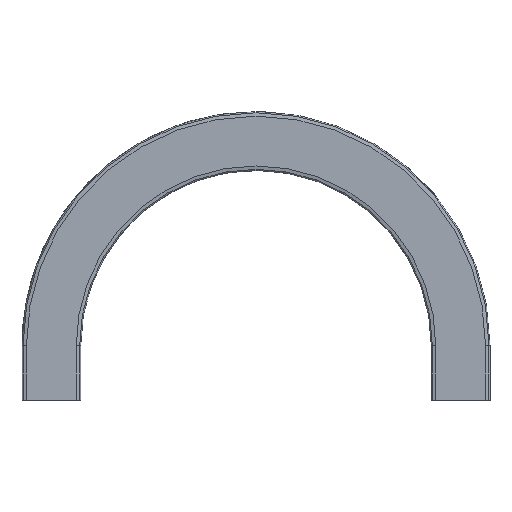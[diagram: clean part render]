
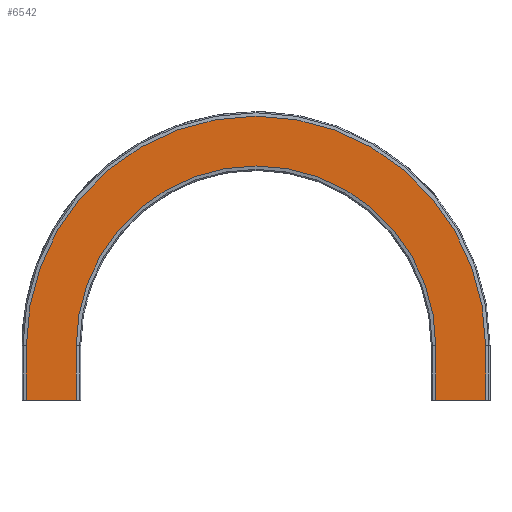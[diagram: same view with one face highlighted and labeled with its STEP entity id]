
A CAD part, front view. The second image highlights one B-rep face of the part: STEP entity #6542.
In plain terms, the highlighted planar face has unit normal (0, -1, 0).
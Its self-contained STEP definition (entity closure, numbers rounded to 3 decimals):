
#6173=CARTESIAN_POINT('',(36.5,-11.,0.0));
#6174=VERTEX_POINT('',#6173);
#6181=CARTESIAN_POINT('',(-36.5,-11.,0.0));
#6182=VERTEX_POINT('',#6181);
#6183=CARTESIAN_POINT('',(-36.5,-11.,0.0));
#6184=DIRECTION('',(1.0,0.0,0.0));
#6185=VECTOR('',#6184,73.);
#6186=LINE('',#6183,#6185);
#6187=EDGE_CURVE('',#6182,#6174,#6186,.T.);
#6253=CARTESIAN_POINT('',(-36.5,-11.,80.0));
#6254=VERTEX_POINT('',#6253);
#6268=CARTESIAN_POINT('',(-36.5,-11.,0.0));
#6269=DIRECTION('',(0.0,0.0,1.0));
#6270=VECTOR('',#6269,80.0);
#6271=LINE('',#6268,#6270);
#6272=EDGE_CURVE('',#6182,#6254,#6271,.T.);
#6282=CARTESIAN_POINT('',(36.5,-11.,80.0));
#6283=VERTEX_POINT('',#6282);
#6292=CARTESIAN_POINT('',(36.5,-11.,0.0));
#6293=DIRECTION('',(0.0,0.0,1.0));
#6294=VECTOR('',#6293,80.0);
#6295=LINE('',#6292,#6294);
#6296=EDGE_CURVE('',#6174,#6283,#6295,.T.);
#6369=CARTESIAN_POINT('',(-636.5,-11.,80.));
#6370=VERTEX_POINT('',#6369);
#6379=CARTESIAN_POINT('',(-300.0,-11.,80.0));
#6380=DIRECTION('',(0.0,-1.0,0.0));
#6381=DIRECTION('',(1.0,0.0,0.0));
#6382=AXIS2_PLACEMENT_3D('',#6379,#6380,#6381);
#6383=CIRCLE('',#6382,336.5);
#6384=EDGE_CURVE('',#6283,#6370,#6383,.T.);
#6436=CARTESIAN_POINT('',(-563.5,-11.,80.));
#6437=VERTEX_POINT('',#6436);
#6452=CARTESIAN_POINT('',(-300.0,-11.,80.0));
#6453=DIRECTION('',(0.0,-1.0,0.0));
#6454=DIRECTION('',(1.0,0.0,0.0));
#6455=AXIS2_PLACEMENT_3D('',#6452,#6453,#6454);
#6456=CIRCLE('',#6455,263.5);
#6457=EDGE_CURVE('',#6254,#6437,#6456,.T.);
#6496=CARTESIAN_POINT('',(-563.5,-11.,0.));
#6497=VERTEX_POINT('',#6496);
#6506=CARTESIAN_POINT('',(-563.5,-11.,80.0));
#6507=DIRECTION('',(0.0,0.0,-1.0));
#6508=VECTOR('',#6507,80.);
#6509=LINE('',#6506,#6508);
#6510=EDGE_CURVE('',#6437,#6497,#6509,.T.);
#6515=CARTESIAN_POINT('',(-636.5,-11.,1102.478));
#6516=DIRECTION('',(0.0,-1.0,0.0));
#6517=DIRECTION('',(0.0,0.0,1.0));
#6518=AXIS2_PLACEMENT_3D('',#6515,#6516,#6517);
#6519=PLANE('',#6518);
#6520=CARTESIAN_POINT('',(-636.5,-11.,0.));
#6521=VERTEX_POINT('',#6520);
#6522=CARTESIAN_POINT('',(-636.5,-11.,0.));
#6523=DIRECTION('',(1.0,0.0,0.0));
#6524=VECTOR('',#6523,73.);
#6525=LINE('',#6522,#6524);
#6526=EDGE_CURVE('',#6521,#6497,#6525,.T.);
#6527=ORIENTED_EDGE('',*,*,#6526,.T.);
#6528=ORIENTED_EDGE('',*,*,#6510,.F.);
#6529=ORIENTED_EDGE('',*,*,#6457,.F.);
#6530=ORIENTED_EDGE('',*,*,#6272,.F.);
#6531=ORIENTED_EDGE('',*,*,#6187,.T.);
#6532=ORIENTED_EDGE('',*,*,#6296,.T.);
#6533=ORIENTED_EDGE('',*,*,#6384,.T.);
#6534=CARTESIAN_POINT('',(-636.5,-11.,80.0));
#6535=DIRECTION('',(0.0,0.0,-1.0));
#6536=VECTOR('',#6535,80.);
#6537=LINE('',#6534,#6536);
#6538=EDGE_CURVE('',#6370,#6521,#6537,.T.);
#6539=ORIENTED_EDGE('',*,*,#6538,.T.);
#6540=EDGE_LOOP('',(#6527,#6528,#6529,#6530,#6531,#6532,#6533,#6539));
#6541=FACE_OUTER_BOUND('',#6540,.T.);
#6542=ADVANCED_FACE('',(#6541),#6519,.T.);
